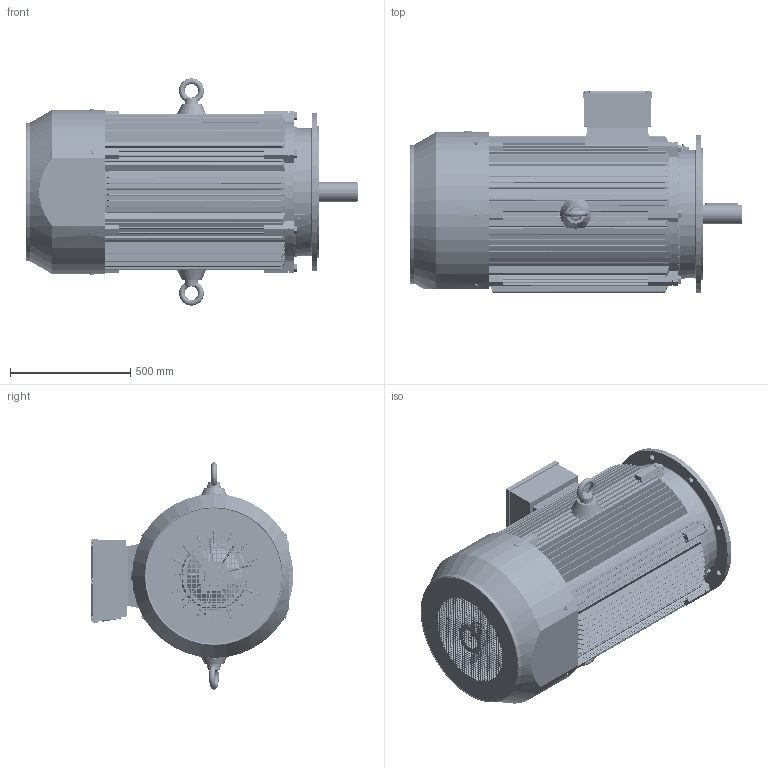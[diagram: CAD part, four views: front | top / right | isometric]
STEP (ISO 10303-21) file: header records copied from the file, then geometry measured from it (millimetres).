
FILE_DESCRIPTION (( 'STEP AP203' ), '1' );
FILE_NAME ('TC 315M-L-4 B5俋倛芞.STEP', '2013-11-05T02:19:42', ( '123' ), ( 'top' ), 'SwSTEP 2.0', 'SolidWorks 2008', '' );
FILE_SCHEMA (( 'CONFIG_CONTROL_DESIGN' ));
Length unit declared in the file: millimetre
Products named in the file (23): TC 315-4轴承外盖_默认; TC 315M-4转轴_默认; TC 315-4风罩_默认; 油封120-95-12_默认; 铜油嘴_默认; M20-70_默认; TC 315-4 B5法兰_默认; TC 315L 机座 B5_默认; TC 315M-L-4 B5俋倛芞; TC 315接线盒座_默认; TC 315接线盒盖_默认; TC 315-4 B3后端盖_默认; TC 315-4轴承內盖_默认; ｷ釁ﾖﾂﾝｶ､ｼﾓｵ貳ｬ_ﾄｬﾈﾏ; 扣塞_默认; M10-90_默认; TC 315-4风叶_默认; M10-25_默认; 吊环M30_默认; M63螺塞_默认; TC 315铭牌_默认; TX315接线盒座垫_默认; TX315接线盒座、盖垫_默认
Assembly tree (46 placements, depth 2):
  TC 315M-L-4 B5俋倛芞
    ｷ釁ﾖﾂﾝｶ､ｼﾓｵ貳ｬ_ﾄｬﾈﾏ  x6
    M20-70_默认  x6
    TC 315接线盒盖_默认
    TC 315-4轴承外盖_默认  x2
    M10-90_默认  x4
    M10-25_默认  x6
    吊环M30_默认  x2
    TC 315M-4转轴_默认
    TC 315接线盒座_默认
    M63螺塞_默认  x2
    TC 315-4 B5法兰_默认
    TC 315L 机座 B5_默认
    TC 315-4轴承內盖_默认  x2
    TC 315-4 B3后端盖_默认
    油封120-95-12_默认  x2
    TX315接线盒座、盖垫_默认
    铜油嘴_默认  x2
    TC 315-4风罩_默认
    扣塞_默认
    TC 315-4风叶_默认
    TC 315铭牌_默认
    TX315接线盒座垫_默认
Bounding box: 1381.98 x 844 x 946 mm (x, y, z)
Volume: 104148056.5 mm3; surface area: 13654976.8 mm2
Topology: 48 solids, 48 shells, 8167 faces, 23024 edges, 15108 vertices
Faces by surface type: plane 5869, cylinder 970, cone 514, torus 449, bspline 209, sphere 156
Entity records: 266938 total; most frequent: CARTESIAN_POINT 73544, ORIENTED_EDGE 41336, DIRECTION 35293, EDGE_CURVE 20668, VECTOR 15423, LINE 15423, VERTEX_POINT 13611, AXIS2_PLACEMENT_3D 9935
